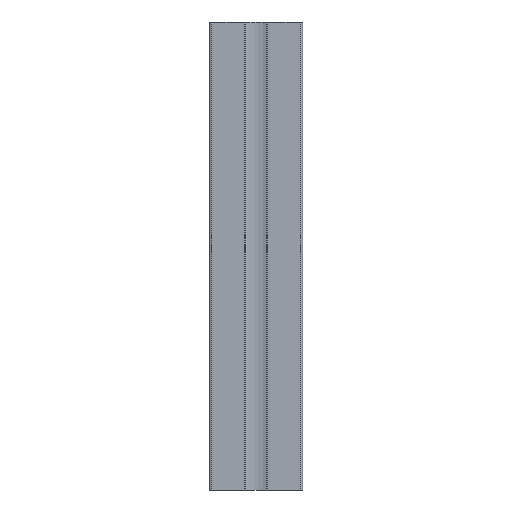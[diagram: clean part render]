
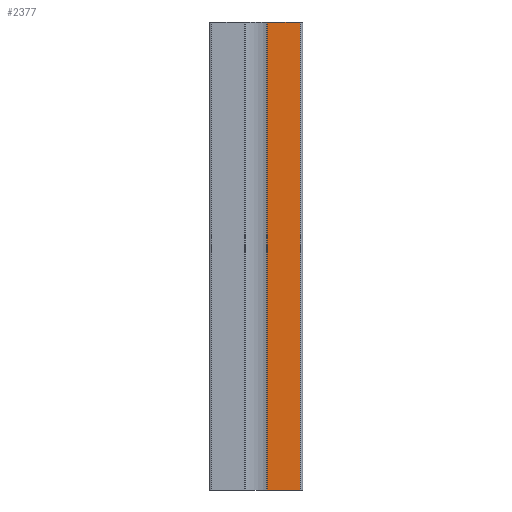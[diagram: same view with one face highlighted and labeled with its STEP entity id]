
A CAD part, front view. The second image highlights one B-rep face of the part: STEP entity #2377.
In plain terms, the highlighted planar face has unit normal (0, -1, 0).
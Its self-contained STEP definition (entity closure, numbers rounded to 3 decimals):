
#52 = CARTESIAN_POINT ( 'NONE',  ( 2.45, -10., -100. ) ) ;
#182 = DIRECTION ( 'NONE',  ( 1., 0., 0. ) ) ;
#265 = CARTESIAN_POINT ( 'NONE',  ( 2.45, -10., -100. ) ) ;
#283 = LINE ( 'NONE', #52, #2016 ) ;
#286 = ORIENTED_EDGE ( 'NONE', *, *, #1846, .F. ) ;
#422 = LINE ( 'NONE', #2045, #2864 ) ;
#458 = EDGE_CURVE ( 'NONE', #2124, #1753, #1911, .T. ) ;
#496 = DIRECTION ( 'NONE',  ( 0., 0., -1. ) ) ;
#592 = ORIENTED_EDGE ( 'NONE', *, *, #458, .F. ) ;
#684 = VECTOR ( 'NONE', #1673, 1000. ) ;
#685 = EDGE_LOOP ( 'NONE', ( #592, #286, #2630, #1193 ) ) ;
#690 = PLANE ( 'NONE',  #2465 ) ;
#742 = VERTEX_POINT ( 'NONE', #265 ) ;
#790 = CARTESIAN_POINT ( 'NONE',  ( 9.5, -10., -100. ) ) ;
#883 = CARTESIAN_POINT ( 'NONE',  ( 2.45, -10., 0. ) ) ;
#1089 = LINE ( 'NONE', #1344, #2100 ) ;
#1122 = CARTESIAN_POINT ( 'NONE',  ( 9.5, -10., 0. ) ) ;
#1193 = ORIENTED_EDGE ( 'NONE', *, *, #2103, .T. ) ;
#1344 = CARTESIAN_POINT ( 'NONE',  ( 2.45, -10., -100. ) ) ;
#1373 = DIRECTION ( 'NONE',  ( 0., -1., 0. ) ) ;
#1433 = DIRECTION ( 'NONE',  ( 0., 0., 1. ) ) ;
#1598 = VERTEX_POINT ( 'NONE', #790 ) ;
#1603 = CARTESIAN_POINT ( 'NONE',  ( 2.45, -10., -100. ) ) ;
#1673 = DIRECTION ( 'NONE',  ( 1., 0., 0. ) ) ;
#1753 = VERTEX_POINT ( 'NONE', #1122 ) ;
#1846 = EDGE_CURVE ( 'NONE', #742, #2124, #283, .T. ) ;
#1911 = LINE ( 'NONE', #2378, #684 ) ;
#2016 = VECTOR ( 'NONE', #1433, 1000. ) ;
#2045 = CARTESIAN_POINT ( 'NONE',  ( 9.5, -10., -100. ) ) ;
#2100 = VECTOR ( 'NONE', #182, 1000. ) ;
#2103 = EDGE_CURVE ( 'NONE', #1598, #1753, #422, .T. ) ;
#2124 = VERTEX_POINT ( 'NONE', #883 ) ;
#2137 = EDGE_CURVE ( 'NONE', #742, #1598, #1089, .T. ) ;
#2377 = ADVANCED_FACE ( 'NONE', ( #2748 ), #690, .T. ) ;
#2378 = CARTESIAN_POINT ( 'NONE',  ( 2.45, -10., 0. ) ) ;
#2463 = DIRECTION ( 'NONE',  ( 0., 0., 1. ) ) ;
#2465 = AXIS2_PLACEMENT_3D ( 'NONE', #1603, #1373, #496 ) ;
#2630 = ORIENTED_EDGE ( 'NONE', *, *, #2137, .T. ) ;
#2748 = FACE_OUTER_BOUND ( 'NONE', #685, .T. ) ;
#2864 = VECTOR ( 'NONE', #2463, 1000. ) ;
